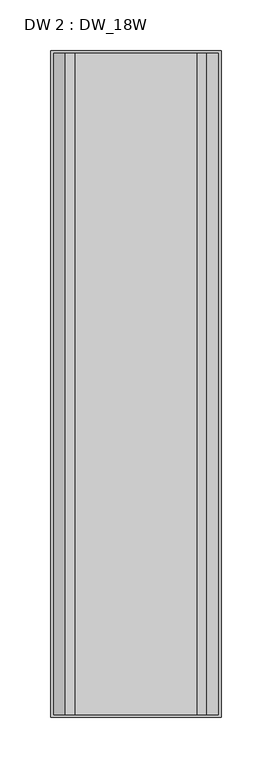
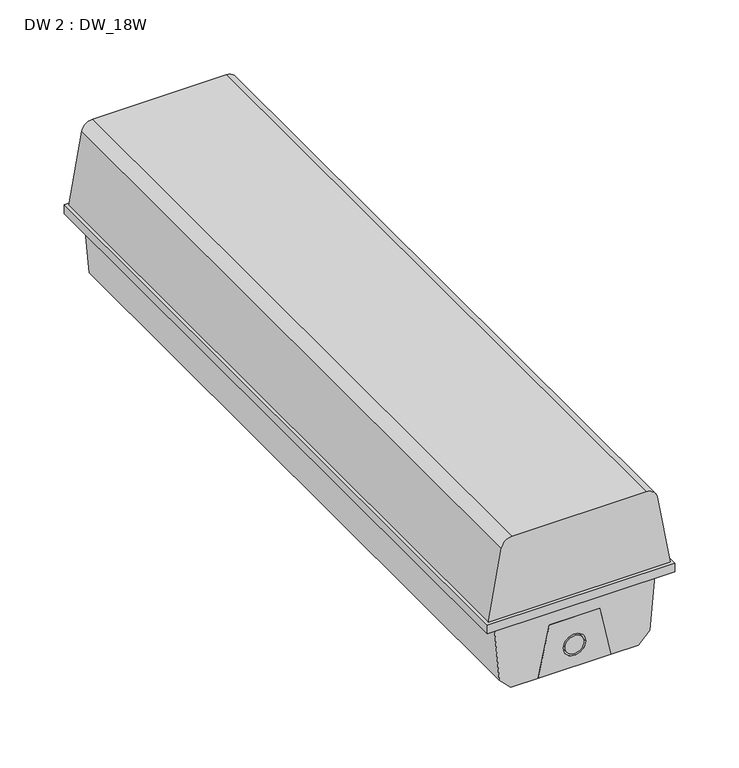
"""IFC4 building model written with IfcOpenShell, lengths in millimetres: light fixture geometry, DW 2 : DW_18W."""

from ifc_helpers import new_model, si_unit, point, frame, frame_2d, origin, place, context, project, spatial, polyline, circle_curve, trimmed, segment, composite_curve, outline, extrude, source, transform, mapped, element, save


def dw_2_dw_18w_67269a34(model_context):
    return source(origin(), model_context, "Body", "SweptSolid", [
        extrude(outline(polyline([(0.0, 482.2202811), (46.8678797, 472.2582058), (46.8678797, 426.8785632), (0.0, 416.9164878), (0.0, 482.2202811)]), holes=[composite_curve([segment(trimmed(circle_curve(frame_2d((20.5560825, 449.5683845)), 10.0), [point((20.5560825, 439.5683845))], [point((20.5560825, 459.5683845))], True, "CARTESIAN"), True, "CONTINUOUS"), segment(trimmed(circle_curve(frame_2d((20.5560825, 449.5683845)), 10.0), [point((20.5560825, 459.5683845))], [point((20.5560825, 439.5683845))], True, "CARTESIAN"), True, "CONTINUOUS")], self_intersect=False)]), frame((0.0, -318.6, 0.0), z_axis=(0.0, 1.0, 0.0), x_axis=(0.0, 0.0, 1.0)), (0.0, 0.0, 1.0), 637.2),
        extrude(outline(composite_curve([segment(trimmed(circle_curve(frame_2d((20.5560825, 449.5683845)), 8.3472193), [point((20.5560825, 441.2211652))], [point((20.5560825, 457.9156038))], False, "CARTESIAN"), True, "CONTINUOUS"), segment(trimmed(circle_curve(frame_2d((20.5560825, 449.5683845)), 8.3472193), [point((20.5560825, 457.9156038))], [point((20.5560825, 441.2211652))], False, "CARTESIAN"), True, "CONTINUOUS")], self_intersect=False)), frame((0.0, -318.6, 0.0), z_axis=(0.0, 1.0, 0.0), x_axis=(0.0, 0.0, 1.0)), (0.0, 0.0, 1.0), 637.2),
        extrude(outline(polyline([(66.2834188, 377.0453975), (10.6066017, 381.9164878), (0.0, 392.5230896), (0.0, 416.9164878), (46.8678797, 426.8785632), (46.8678797, 472.2582058), (0.0, 482.2202811), (0.0, 506.6136794), (10.6066017, 517.2202811), (66.2834188, 522.0913715), (66.2834188, 377.0453975)])), frame((0.0, -318.6, 0.0), z_axis=(0.0, 1.0, 0.0), x_axis=(0.0, 0.0, 1.0)), (0.0, 0.0, 1.0), 637.2),
        extrude(outline(polyline([(533.5683845, -328.6), (365.5683845, -328.6), (365.5683845, 328.6), (533.5683845, 328.6), (533.5683845, -328.6)])), frame((0.0, 0.0, 66.2834188), z_axis=(0.0, 0.0, 1.0), x_axis=(1.0, 0.0, 0.0)), (0.0, 0.0, 1.0), 8.2165812),
        extrude(outline(composite_curve([segment(polyline([(74.5, 368.0683845), (74.5, 531.0683845), (140.7364818, 519.3891056)]), True, "CONTINUOUS"), segment(trimmed(circle_curve(frame_2d((139.0, 509.5410281)), 10.0), [point((140.7364818, 519.3891056))], [point((149.0, 509.5410281))], False, "CARTESIAN"), True, "CONTINUOUS"), segment(polyline([(149.0, 509.5410281), (149.0, 389.5957409)]), True, "CONTINUOUS"), segment(trimmed(circle_curve(frame_2d((139.0, 389.5957409)), 10.0), [point((149.0, 389.5957409))], [point((140.7364818, 379.7476633))], False, "CARTESIAN"), True, "CONTINUOUS"), segment(polyline([(140.7364818, 379.7476633), (74.5, 368.0683845)]), True, "CONTINUOUS")], self_intersect=False)), frame((0.0, -326.1, 0.0), z_axis=(0.0, 1.0, 0.0), x_axis=(0.0, 0.0, 1.0)), (0.0, 0.0, 1.0), 652.2),
    ])


if __name__ == "__main__":
    model = new_model("IFC4")
    model_context = context("Model", 3, world=origin())
    ifc_project = project(units=[si_unit("LENGTHUNIT", "METRE", prefix="MILLI")], contexts=[model_context])
    site = spatial("IfcSite", under=ifc_project)
    building = spatial("IfcBuilding", under=site)
    placement = place(None, origin())
    dw_2_dw_18w_shape = dw_2_dw_18w_67269a34(model_context)
    element("IfcLightFixture", 1, ObjectType="DW 2 : DW_18W", at=placement, inside=building, context=model_context, shape_type="MappedRepresentation", body=[
        mapped(dw_2_dw_18w_shape, transform((0.0, 0.0, 0.0), x_axis=(1.0, 0.0, 0.0), y_axis=(0.0, 1.0, 0.0), z_axis=(0.0, 0.0, 1.0))),
    ])
    save(model, "model.ifc")
